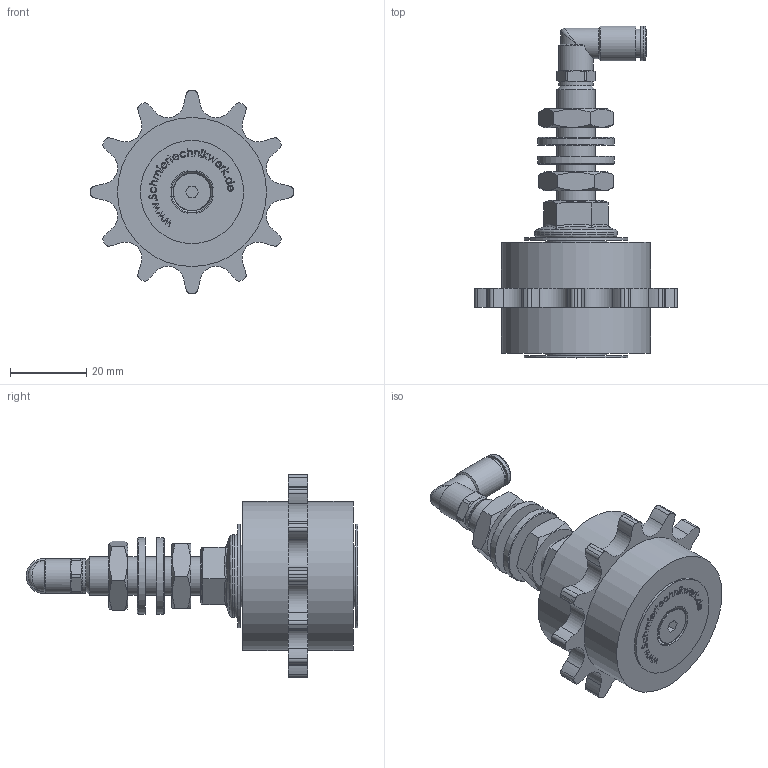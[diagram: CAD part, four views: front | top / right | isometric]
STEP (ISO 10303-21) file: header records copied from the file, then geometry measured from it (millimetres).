
FILE_DESCRIPTION (( 'STEP AP214' ), '1' );
FILE_NAME ('012_06_08B1_AZ.STEP', '2026-01-19T09:39:20', ( '' ), ( '' ), 'SwSTEP 2.0', 'SolidWorks 2022', '' );
FILE_SCHEMA (( 'AUTOMOTIVE_DESIGN' ));
Length unit declared in the file: millimetre
Products named in the file (9): U_Scheibe_10.5; R202200-N2A_1; DR4_NEU_1; Winkeleinsteck_4_M6; 012_06_08B1_A_Kettenschmierritzel 08 B-1, Z12 - gerade; Mutter_M10; 012_06_08B1_AZ; 214600-N2_1; OR 4X1.5
Assembly tree (10 placements, depth 3):
  012_06_08B1_AZ
    012_06_08B1_A_Kettenschmierritzel 08 B-1, Z12 - gerade
    Mutter_M10  x2
    U_Scheibe_10.5  x2
    Winkeleinsteck_4_M6
      OR 4X1.5
      214600-N2_1
      DR4_NEU_1
      R202200-N2A_1
Bounding box: 53 x 86.85 x 53 mm (x, y, z)
Volume: 4119.2 mm3; surface area: 18954.7 mm2
Topology: 8 solids, 33 shells, 321 faces, 1093 edges, 824 vertices
Faces by surface type: cylinder 153, plane 98, cone 56, bspline 14
Full cylindrical faces by diameter (mm): 3 x1, 4 x4, 4.1 x2, 4.2 x1, 4.6 x1, 4.917 x1, 5 x9, 6 x2, 6.4 x1, 6.8 x2, 7.3 x1, 7.4 x1, 7.6 x1, 7.85 x1, 7.9 x1, 8 x1, 8.5 x2, 9 x3, 9.1 x1, 10 x2, 10.5 x2, 12 x3, 12.1 x1, 14 x1, 16 x2, 20 x2, 21.6 x1, 27 x2, 39 x2
Entity records: 24652 total; most frequent: CARTESIAN_POINT 14257, DIRECTION 1545, ORIENTED_EDGE 1480, EDGE_CURVE 909, VERTEX_POINT 751, AXIS2_PLACEMENT_3D 613, EDGE_LOOP 464, FACE_OUTER_BOUND 359
